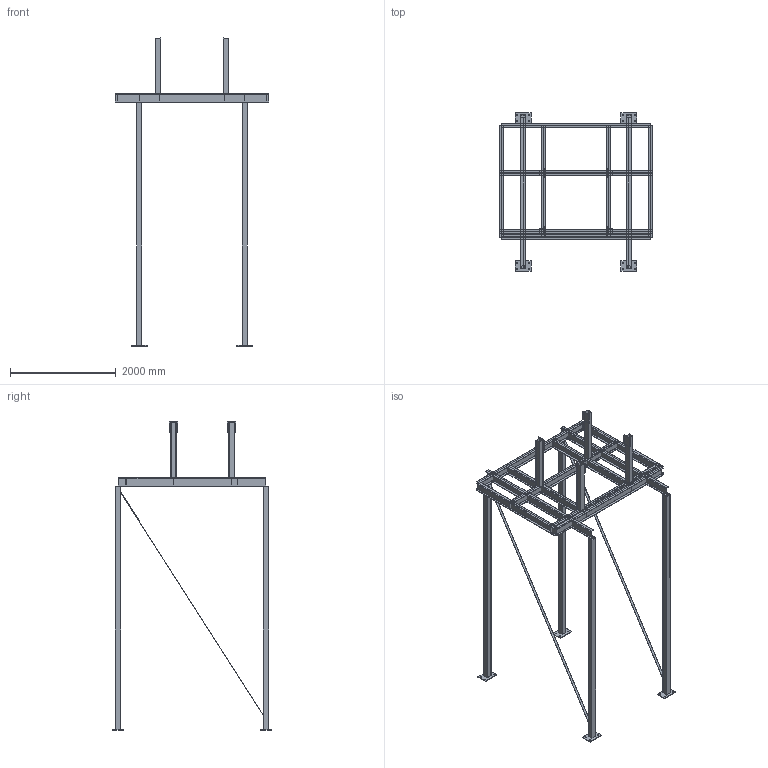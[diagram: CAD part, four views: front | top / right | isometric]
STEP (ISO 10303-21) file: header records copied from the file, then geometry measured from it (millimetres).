
FILE_DESCRIPTION (( 'STEP AP203' ), '1' );
FILE_NAME ('FD01.step', '2026-11-13T19:34:50', ( '' ), ( '' ), 'SwSTEP 2.0', 'SolidWorks 2026', '' );
FILE_SCHEMA (( 'CONFIG_CONTROL_DESIGN' ));
Length unit declared in the file: millimetre
Products named in the file (1): FD01
Bounding box: 2902 x 3000 x 5830 mm (x, y, z)
Volume: 99832049.8 mm3; surface area: 35482290.3 mm2
Topology: 28 solids, 28 shells, 312 faces, 768 edges, 512 vertices
Faces by surface type: plane 280, cylinder 32
Entity records: 9195 total; most frequent: CARTESIAN_POINT 1593, ORIENTED_EDGE 1536, DIRECTION 1458, EDGE_CURVE 768, VECTOR 704, LINE 704, VERTEX_POINT 512, AXIS2_PLACEMENT_3D 377
